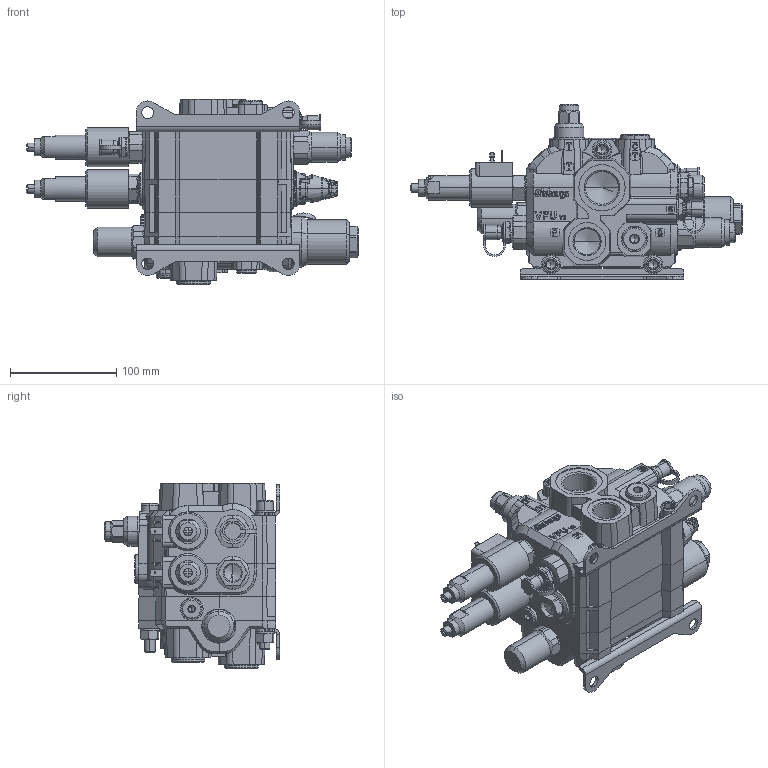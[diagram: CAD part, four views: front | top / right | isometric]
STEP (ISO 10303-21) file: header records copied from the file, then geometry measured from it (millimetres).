
FILE_DESCRIPTION (( 'STEP AP203' ), '1' );
FILE_NAME ('S-21000.STEP', '2018-05-23T07:55:56', ( '' ), ( '' ), 'SwSTEP 2.0', 'SolidWorks 2018', '' );
FILE_SCHEMA (( 'CONFIG_CONTROL_DESIGN' ));
Products named in the file (1): S-21000
Bounding box: 311.84 x 164.5 x 174 mm (x, y, z)
Surface area: 346976.2 mm2 (no closed solid volume)
Topology: 0 solids, 50 shells, 3826 faces, 9455 edges, 5783 vertices
Faces by surface type: plane 1459, cylinder 994, bspline 682, cone 541, torus 124, sphere 26
Entity records: 142195 total; most frequent: CARTESIAN_POINT 58686, ORIENTED_EDGE 18510, DIRECTION 15549, EDGE_CURVE 9331, VERTEX_POINT 5783, AXIS2_PLACEMENT_3D 5635, LINE 4279, VECTOR 4279
